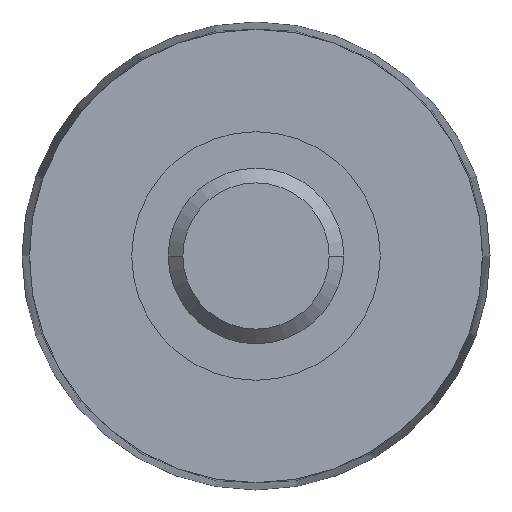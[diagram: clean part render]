
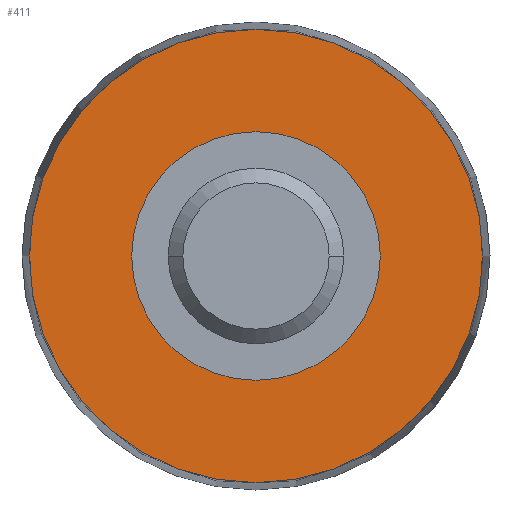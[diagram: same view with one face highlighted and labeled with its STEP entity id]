
A CAD part, left-side view. The second image highlights one B-rep face of the part: STEP entity #411.
In plain terms, the highlighted planar face has unit normal (-1, 0, 0).
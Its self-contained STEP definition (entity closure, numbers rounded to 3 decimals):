
#27 = EDGE_CURVE ( 'NONE', #453, #397, #408, .T. ) ;
#36 = CARTESIAN_POINT ( 'NONE',  ( -83.5, 0., 0. ) ) ;
#42 = ORIENTED_EDGE ( 'NONE', *, *, #128, .F. ) ;
#45 = CIRCLE ( 'NONE', #312, 15.5 ) ;
#71 = FACE_BOUND ( 'NONE', #555, .T. ) ;
#111 = CARTESIAN_POINT ( 'NONE',  ( -83.5, 0., 0. ) ) ;
#119 = ORIENTED_EDGE ( 'NONE', *, *, #280, .T. ) ;
#122 = DIRECTION ( 'NONE',  ( 0., -1., 0. ) ) ;
#126 = ORIENTED_EDGE ( 'NONE', *, *, #27, .T. ) ;
#128 = EDGE_CURVE ( 'NONE', #635, #147, #407, .T. ) ;
#147 = VERTEX_POINT ( 'NONE', #267 ) ;
#162 = DIRECTION ( 'NONE',  ( -1., 0., 0. ) ) ;
#181 = EDGE_CURVE ( 'NONE', #147, #635, #494, .T. ) ;
#208 = DIRECTION ( 'NONE',  ( -1., 0., 0. ) ) ;
#221 = DIRECTION ( 'NONE',  ( -1., 0., 0. ) ) ;
#226 = CARTESIAN_POINT ( 'NONE',  ( -83.5, 8.5, 0. ) ) ;
#237 = PLANE ( 'NONE',  #344 ) ;
#242 = ORIENTED_EDGE ( 'NONE', *, *, #181, .F. ) ;
#256 = AXIS2_PLACEMENT_3D ( 'NONE', #470, #208, #323 ) ;
#267 = CARTESIAN_POINT ( 'NONE',  ( -83.5, 8.5, 0. ) ) ;
#280 = EDGE_CURVE ( 'NONE', #397, #453, #45, .T. ) ;
#312 = AXIS2_PLACEMENT_3D ( 'NONE', #36, #221, #578 ) ;
#323 = DIRECTION ( 'NONE',  ( 0., -1., 0. ) ) ;
#344 = AXIS2_PLACEMENT_3D ( 'NONE', #226, #653, #611 ) ;
#369 = CARTESIAN_POINT ( 'NONE',  ( -83.5, 0., 0. ) ) ;
#371 = DIRECTION ( 'NONE',  ( -1., 0., 0. ) ) ;
#397 = VERTEX_POINT ( 'NONE', #651 ) ;
#407 = CIRCLE ( 'NONE', #256, 8.5 ) ;
#408 = CIRCLE ( 'NONE', #498, 15.5 ) ;
#411 = ADVANCED_FACE ( 'NONE', ( #71, #449 ), #237, .F. ) ;
#449 = FACE_OUTER_BOUND ( 'NONE', #654, .T. ) ;
#453 = VERTEX_POINT ( 'NONE', #605 ) ;
#470 = CARTESIAN_POINT ( 'NONE',  ( -83.5, 0., 0. ) ) ;
#494 = CIRCLE ( 'NONE', #626, 8.5 ) ;
#498 = AXIS2_PLACEMENT_3D ( 'NONE', #369, #371, #122 ) ;
#555 = EDGE_LOOP ( 'NONE', ( #42, #242 ) ) ;
#567 = DIRECTION ( 'NONE',  ( 0., -1., 0. ) ) ;
#578 = DIRECTION ( 'NONE',  ( 0., -1., 0. ) ) ;
#605 = CARTESIAN_POINT ( 'NONE',  ( -83.5, -15.5, 0. ) ) ;
#611 = DIRECTION ( 'NONE',  ( 0., 1., 0. ) ) ;
#613 = CARTESIAN_POINT ( 'NONE',  ( -83.5, -8.5, 0. ) ) ;
#626 = AXIS2_PLACEMENT_3D ( 'NONE', #111, #162, #567 ) ;
#635 = VERTEX_POINT ( 'NONE', #613 ) ;
#651 = CARTESIAN_POINT ( 'NONE',  ( -83.5, 15.5, 0. ) ) ;
#653 = DIRECTION ( 'NONE',  ( 1., 0., 0. ) ) ;
#654 = EDGE_LOOP ( 'NONE', ( #119, #126 ) ) ;
